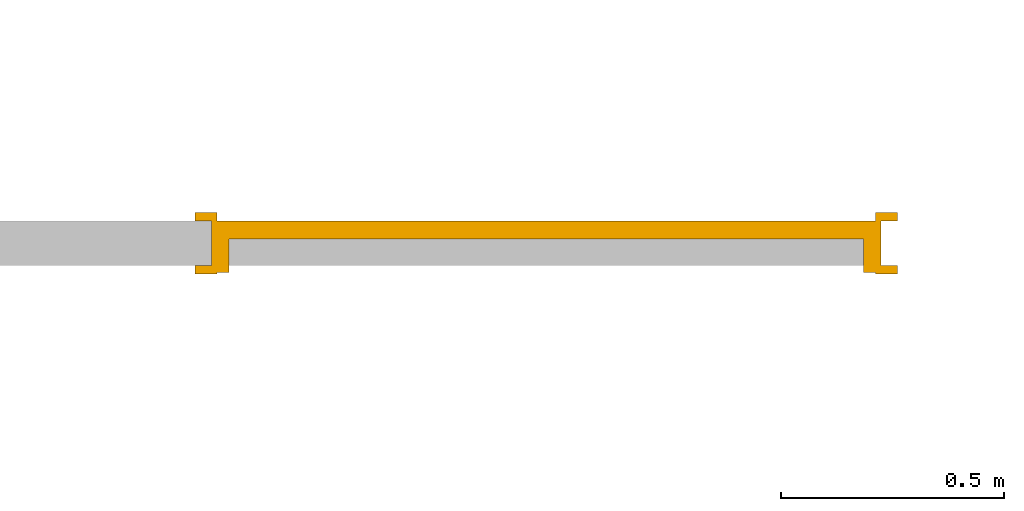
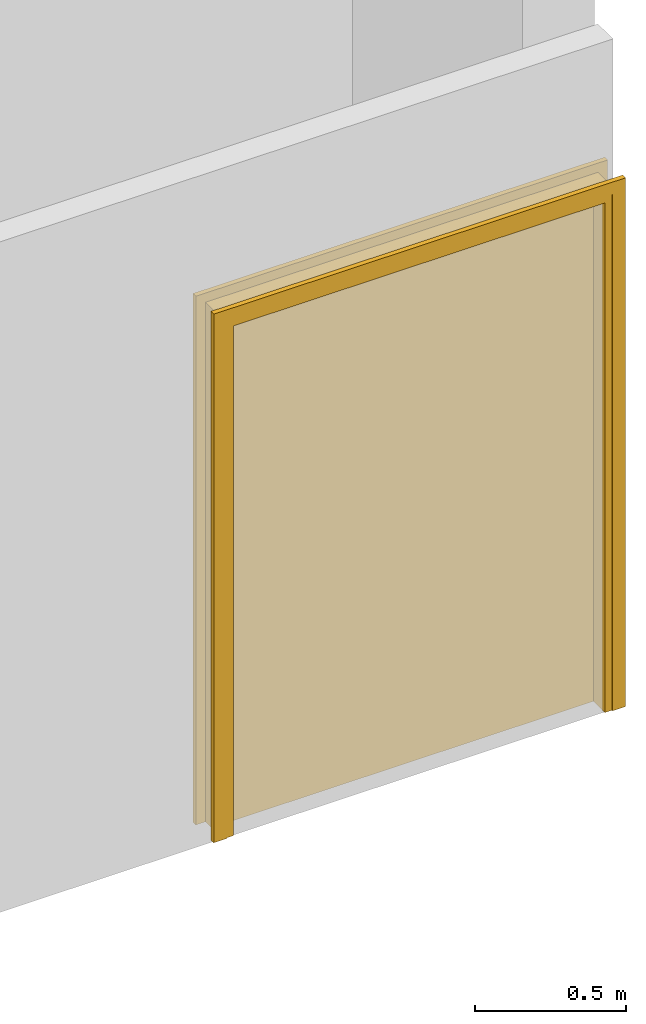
# One storey, part 10 of 22: 1 door.
"""IFC2X3 building model written with IfcOpenShell, lengths in millimetres."""

import ifcopenshell
import ifcopenshell.guid

model = None  # the IFC model being written
_history = None  # IfcOwnerHistory: only IFC2X3 demands one
_inside = {}  # id of a spatial element -> (the spatial element, [elements in it])
_under = {}  # id of a project, library or spatial element -> (it, [spatial elements below it])
_declared = {}  # id of a project -> (the project, [libraries it declares])
_typed = {}  # id of a type object -> (the type object, [elements of that type])
_made_of = {}  # id of a material, layer set ... -> (it, [elements and type objects made of it])


def new_model(schema):
    """Start an empty IFC model of exactly this schema.

    Asked for "IFC4X3", IfcOpenShell would pick the latest addendum, in which some entities
    have other attributes; the version numbers below select the first issue.
    IFC2X3 requires an IfcOwnerHistory on every rooted entity: one is made here for all.
    """
    global model, _history
    if schema == "IFC4X3":
        model = ifcopenshell.file(schema_version=(4, 3, 0, 0))
    else:
        model = ifcopenshell.file(schema=schema)
    _inside.clear()
    _under.clear()
    _declared.clear()
    _typed.clear()
    _made_of.clear()
    _history = None
    if model.schema == "IFC2X3":
        org = make("IfcOrganization", Name="unknown")
        user = make(
            "IfcPersonAndOrganization",
            ThePerson=make("IfcPerson", FamilyName="unknown"),
            TheOrganization=org,
        )
        app = make(
            "IfcApplication",
            ApplicationDeveloper=org,
            Version="unknown",
            ApplicationFullName="unknown",
            ApplicationIdentifier="unknown",
        )
        _history = make(
            "IfcOwnerHistory",
            OwningUser=user,
            OwningApplication=app,
            ChangeAction="ADDED",
            CreationDate=0,
        )
    return model


def make(cls, **values):
    """One entity of the class cls with the attributes given. An attribute that is None is left unset."""
    return model.create_entity(
        cls, **{name: value for name, value in values.items() if value is not None}
    )


def entity(cls, *values):
    """Any entity or typed value of the class cls, its attributes in the order of the schema. None: left unset."""
    e = model.create_entity(cls)
    for i, value in enumerate(values):
        if value is not None:
            e[i] = value
    return e


def rooted(cls, **values):
    """An entity with a GlobalId (a new one), such as an element, a storey or a relation."""
    return make(cls, GlobalId=ifcopenshell.guid.new(), OwnerHistory=_history, **values)


def si_unit(unit_type, name, prefix=None):
    """IfcSIUnit, for example si_unit("LENGTHUNIT", "METRE", prefix="MILLI")."""
    return make("IfcSIUnit", UnitType=unit_type, Prefix=prefix, Name=name)


def converted_unit(unit_type, name, factor, base, dimensions=None, offset=None):
    """IfcConversionBasedUnit, such as the inch: factor (a typed value) times the base unit."""
    return make(
        "IfcConversionBasedUnit"
        if offset is None
        else "IfcConversionBasedUnitWithOffset",
        ConversionOffset=offset,
        Dimensions=None
        if dimensions is None
        else entity("IfcDimensionalExponents", *dimensions),
        UnitType=unit_type,
        Name=name,
        ConversionFactor=make(
            "IfcMeasureWithUnit", ValueComponent=factor, UnitComponent=base
        ),
    )


def derived_unit(unit_type, elements):
    """IfcDerivedUnit: a product of units, each with its exponent."""
    return make(
        "IfcDerivedUnit",
        Elements=[
            make("IfcDerivedUnitElement", Unit=unit, Exponent=power)
            for unit, power in elements
        ],
        UnitType=unit_type,
    )


def assignment(units):
    """IfcUnitAssignment: the units of a project."""
    return None if units is None else make("IfcUnitAssignment", Units=units)


def point(xyz):
    """IfcCartesianPoint."""
    return None if xyz is None else make("IfcCartesianPoint", Coordinates=xyz)


def direction(xyz):
    """IfcDirection."""
    return None if xyz is None else make("IfcDirection", DirectionRatios=xyz)


def frame(location, z_axis=None, x_axis=None):
    """IfcAxis2Placement3D, a coordinate frame: its origin and axes. An axis left out is left unset."""
    return make(
        "IfcAxis2Placement3D",
        Location=point(location),
        Axis=direction(z_axis),
        RefDirection=direction(x_axis),
    )


def origin():
    """The frame at (0, 0, 0) with its axes left unset."""
    return frame((0.0, 0.0, 0.0))


def place(relative_to, where):
    """IfcLocalPlacement: puts the frame where relative to a parent placement (None: the world)."""
    return make(
        "IfcLocalPlacement", PlacementRelTo=relative_to, RelativePlacement=where
    )


def context(
    kind, dimensions, precision=None, world=None, true_north=None, identifier=None
):
    """IfcGeometricRepresentationContext, for example the 3D "Model" context."""
    return make(
        "IfcGeometricRepresentationContext",
        ContextIdentifier=identifier,
        ContextType=kind,
        CoordinateSpaceDimension=dimensions,
        Precision=precision,
        WorldCoordinateSystem=world,
        TrueNorth=true_north,
    )


def subcontext(parent, identifier, kind, view, scale=None):
    """IfcGeometricRepresentationSubContext, for example "Body" below "Model"."""
    return make(
        "IfcGeometricRepresentationSubContext",
        ContextIdentifier=identifier,
        ContextType=kind,
        ParentContext=parent,
        TargetScale=scale,
        TargetView=view,
    )


def project(units=None, contexts=None):
    """IfcProject with its units and contexts."""
    return rooted(
        "IfcProject",
        Name="project",
        RepresentationContexts=contexts,
        UnitsInContext=assignment(units),
    )


def spatial(cls, under=None, at=None, **own):
    """A site, building, storey or space (cls), placed at a placement, below another one or the project."""
    s = rooted(cls, ObjectPlacement=at, **own)
    if under is not None:
        _under.setdefault(under.id(), (under, []))[1].append(s)
    return s


def faces_of(points, faces, orient=None, outer=None):
    """IfcFace entities. A face is a list of loops; a loop is a list of indices into points, from 0.

    orient and outer hold one flag for each loop. By default every Orientation is true, the
    first loop of a face is its IfcFaceOuterBound and the others are IfcFaceBound.
    """
    made = []
    for i, loops in enumerate(faces):
        bounds = []
        for j, loop in enumerate(loops):
            is_outer = j == 0 if outer is None else outer[i][j]
            bounds.append(
                make(
                    "IfcFaceOuterBound" if is_outer else "IfcFaceBound",
                    Bound=make("IfcPolyLoop", Polygon=[points[k] for k in loop]),
                    Orientation=True if orient is None else orient[i][j],
                )
            )
        made.append(make("IfcFace", Bounds=bounds))
    return made


def face_set(faces, orient=None, outer=None):
    """The faces of one IfcConnectedFaceSet. surface_model builds it on its shared points."""
    return ("IfcConnectedFaceSet", faces, orient, outer)


def surface_model(cls, points, shells):
    """IfcFaceBasedSurfaceModel or IfcShellBasedSurfaceModel (cls): surfaces that need not close."""
    shared = [point(p) for p in points]
    made = [make(c, CfsFaces=faces_of(shared, fs, o, b)) for c, fs, o, b in shells]
    if cls == "IfcFaceBasedSurfaceModel":
        return make(cls, FbsmFaces=made)
    return make(cls, SbsmBoundary=made)


def shape(context_of_items, identifier, shape_type, items):
    """IfcShapeRepresentation: the items that make up one representation, for example the "Body"."""
    return make(
        "IfcShapeRepresentation",
        ContextOfItems=context_of_items,
        RepresentationIdentifier=identifier,
        RepresentationType=shape_type,
        Items=items,
    )


def source(mapping_origin, context_of_items, identifier, shape_type, items):
    """IfcRepresentationMap: a shape defined once, which mapped items show again and again."""
    return make(
        "IfcRepresentationMap",
        MappingOrigin=mapping_origin,
        MappedRepresentation=shape(context_of_items, identifier, shape_type, items),
    )


def transform(
    local_origin,
    x_axis=None,
    y_axis=None,
    z_axis=None,
    scale=None,
    scale2=None,
    scale3=None,
    uniform=True,
):
    """IfcCartesianTransformationOperator3D, or its non-uniform kind. x_axis, y_axis, z_axis: its Axis1, 2, 3."""
    if uniform:
        return make(
            "IfcCartesianTransformationOperator3D",
            Axis1=direction(x_axis),
            Axis2=direction(y_axis),
            LocalOrigin=point(local_origin),
            Scale=scale,
            Axis3=direction(z_axis),
        )
    return make(
        "IfcCartesianTransformationOperator3DnonUniform",
        Axis1=direction(x_axis),
        Axis2=direction(y_axis),
        LocalOrigin=point(local_origin),
        Scale=scale,
        Axis3=direction(z_axis),
        Scale2=scale2,
        Scale3=scale3,
    )


def mapped(mapping_source, mapping_target):
    """IfcMappedItem: shows the shape of a source again, moved by a transform."""
    return make(
        "IfcMappedItem", MappingSource=mapping_source, MappingTarget=mapping_target
    )


def material(Name=None, Category=None):
    """IfcMaterial."""
    return make("IfcMaterial", Name=Name, Category=Category)


def made_of(thing, what):
    """Note that an element or type object is made of a material, layer set ...; save() writes the relation."""
    if what is not None:
        _made_of.setdefault(what.id(), (what, []))[1].append(thing)
    return thing


def type_object(cls, material=None, **own):
    """A type object (cls), such as IfcWallType, which elements share."""
    return made_of(rooted(cls, **own), material)


def type_shapes(of_type, sources):
    """Give a type object the sources (RepresentationMaps) that its elements show as mapped items."""
    of_type.RepresentationMaps = sources


def element(
    cls,
    number,
    at=None,
    inside=None,
    cuts=None,
    type_object=None,
    material=None,
    context=None,
    identifier="Body",
    shape_type=None,
    held_by="IfcProductDefinitionShape",
    body=None,
    shapes=None,
    **own,
):
    """One element of the class cls, such as IfcWall. Its Tag is "e" and its number.

    at: its placement. inside: the storey or other place that contains it. cuts: it is an
    opening in that element (IfcRelVoidsElement). A single representation is given by context,
    identifier, shape_type and body (its items); several are given by shapes. held_by: the class
    of the entity that holds the representations. save() writes the other relations.
    """
    e = rooted(cls, Tag="e%d" % number, ObjectPlacement=at, **own)
    if body is not None:
        shapes = [shape(context, identifier, shape_type, body)]
    if shapes is not None:
        e.Representation = make(held_by, Representations=shapes)
    if inside is not None:
        _inside.setdefault(inside.id(), (inside, []))[1].append(e)
    if cuts is not None:
        rooted(
            "IfcRelVoidsElement", RelatingBuildingElement=cuts, RelatedOpeningElement=e
        )
    if type_object is not None:
        _typed.setdefault(type_object.id(), (type_object, []))[1].append(e)
    return made_of(e, material)


def aggregate(whole, parts):
    """IfcRelAggregates: a whole, such as a stair, and the parts it consists of."""
    return rooted("IfcRelAggregates", RelatingObject=whole, RelatedObjects=parts)


def save(model, path):
    """Write the relations noted so far, then the file.

    IfcRelAggregates (storeys below a building ...), IfcRelContainedInSpatialStructure (elements
    in a storey), IfcRelDefinesByType, IfcRelAssociatesMaterial and IfcRelDeclares: one each for
    every whole, place, type object, material and project.
    """
    for whole, parts in _under.values():
        aggregate(whole, parts)
    for where, things in _inside.values():
        rooted(
            "IfcRelContainedInSpatialStructure",
            RelatedElements=things,
            RelatingStructure=where,
        )
    for kind, things in _typed.values():
        rooted("IfcRelDefinesByType", RelatedObjects=things, RelatingType=kind)
    for what, things in _made_of.values():
        rooted("IfcRelAssociatesMaterial", RelatedObjects=things, RelatingMaterial=what)
    for by, libraries in _declared.values():
        rooted("IfcRelDeclares", RelatingContext=by, RelatedDefinitions=libraries)
    model.write(path)


model = new_model("IFC2X3")

# Units and contexts
model_context = context("Model", 3, precision=0.01, world=origin(), true_north=direction((6.12303176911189e-17, 1.0)))
body_context = subcontext(model_context, "Body", "Model", "MODEL_VIEW")
ifc_project = project(units=[si_unit("LENGTHUNIT", "METRE", prefix="MILLI"), si_unit("AREAUNIT", "SQUARE_METRE"), si_unit("VOLUMEUNIT", "CUBIC_METRE"), converted_unit("PLANEANGLEUNIT", "DEGREE", entity("IfcRatioMeasure", 0.0174532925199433), si_unit("PLANEANGLEUNIT", "RADIAN"), dimensions=[0, 0, 0, 0, 0, 0, 0]), si_unit("MASSUNIT", "GRAM", prefix="KILO"), derived_unit("MASSDENSITYUNIT", [(si_unit("MASSUNIT", "GRAM", prefix="KILO"), 1), (si_unit("LENGTHUNIT", "METRE"), -3)]), si_unit("TIMEUNIT", "SECOND"), si_unit("FREQUENCYUNIT", "HERTZ"), si_unit("THERMODYNAMICTEMPERATUREUNIT", "DEGREE_CELSIUS"), derived_unit("THERMALTRANSMITTANCEUNIT", [(si_unit("MASSUNIT", "GRAM", prefix="KILO"), 1), (si_unit("THERMODYNAMICTEMPERATUREUNIT", "KELVIN"), -1), (si_unit("TIMEUNIT", "SECOND"), -3)]), derived_unit("VOLUMETRICFLOWRATEUNIT", [(si_unit("LENGTHUNIT", "METRE"), 3), (si_unit("TIMEUNIT", "SECOND"), -1)]), si_unit("ELECTRICCURRENTUNIT", "AMPERE"), si_unit("ELECTRICVOLTAGEUNIT", "VOLT"), si_unit("POWERUNIT", "WATT"), si_unit("FORCEUNIT", "NEWTON", prefix="KILO"), si_unit("ILLUMINANCEUNIT", "LUX"), si_unit("LUMINOUSFLUXUNIT", "LUMEN"), si_unit("LUMINOUSINTENSITYUNIT", "CANDELA"), derived_unit("USERDEFINED", [(si_unit("MASSUNIT", "GRAM", prefix="KILO"), -1), (si_unit("LENGTHUNIT", "METRE"), -2), (si_unit("TIMEUNIT", "SECOND"), 3), (si_unit("LUMINOUSFLUXUNIT", "LUMEN"), 1)]), derived_unit("LINEARVELOCITYUNIT", [(si_unit("LENGTHUNIT", "METRE"), 1), (si_unit("TIMEUNIT", "SECOND"), -1)]), si_unit("PRESSUREUNIT", "PASCAL"), derived_unit("USERDEFINED", [(si_unit("LENGTHUNIT", "METRE"), -2), (si_unit("MASSUNIT", "GRAM", prefix="KILO"), 1), (si_unit("TIMEUNIT", "SECOND"), -2)])], contexts=[model_context])

# Site, building, storey
site_placement = place(None, origin())
site = spatial("IfcSite", under=ifc_project, at=site_placement, Name="Default", CompositionType="ELEMENT")
building_placement = place(site_placement, origin())
building = spatial("IfcBuilding", under=site, at=building_placement, CompositionType="ELEMENT")
storey_placement = place(building_placement, frame((0.0, 0.0, -3000.0)))
storey = spatial("IfcBuildingStorey", under=building, at=storey_placement, Name="-2. Story", CompositionType="ELEMENT", Elevation=-3000.0)

# Door
ifc_material = material(Name="Metal - Stainless Steel")
door_style = type_object("IfcDoorStyle", Name="DOO - 003", ConstructionType="NOTDEFINED", OperationType="NOTDEFINED", ParameterTakesPrecedence=False, Sizeable=False, material=ifc_material)
shared_shape = source(origin(), body_context, "Body", "SurfaceModel", [
    surface_model("IfcFaceBasedSurfaceModel", [(113471.8569215, 74484.1569014, -2900.0), (113471.8569215, 74503.1569014, -2900.0), (113521.8569215, 74503.1569014, -2900.0), (113521.8569215, 74484.1569014, -2900.0), (113471.8569215, 74484.1569014, -763.0), (113471.8569215, 74503.1569014, -763.0), (113471.8569215, 74503.1569014, -2900.0), (113471.8569215, 74484.1569014, -2900.0), (113471.8569215, 74503.1569014, -2900.0), (113471.8569215, 74503.1569014, -763.0), (113521.8569215, 74503.1569014, -813.0), (113521.8569215, 74503.1569014, -2900.0), (113521.8569215, 74484.1569014, -2900.0), (113521.8569215, 74503.1569014, -2900.0), (113521.8569215, 74503.1569014, -813.0), (113521.8569215, 74484.1569014, -813.0), (113471.8569215, 74484.1569014, -2900.0), (113521.8569215, 74484.1569014, -2900.0), (113521.8569215, 74484.1569014, -813.0), (113471.8569215, 74484.1569014, -763.0), (113521.8569215, 74484.1569014, -813.0), (113521.8569215, 74503.1569014, -813.0), (113471.8569215, 74503.1569014, -763.0), (113471.8569215, 74484.1569014, -763.0), (115045.8569215, 74484.1569014, -763.0), (115045.8569215, 74503.1569014, -763.0), (114995.8569215, 74503.1569014, -813.0), (114995.8569215, 74484.1569014, -813.0), (115045.8569215, 74484.1569014, -2900.0), (115045.8569215, 74503.1569014, -2900.0), (115045.8569215, 74503.1569014, -763.0), (115045.8569215, 74484.1569014, -763.0), (115045.8569215, 74503.1569014, -763.0), (115045.8569215, 74503.1569014, -2900.0), (114995.8569215, 74503.1569014, -2900.0), (114995.8569215, 74503.1569014, -813.0), (114995.8569215, 74484.1569014, -813.0), (114995.8569215, 74503.1569014, -813.0), (114995.8569215, 74503.1569014, -2900.0), (114995.8569215, 74484.1569014, -2900.0), (115045.8569215, 74484.1569014, -763.0), (114995.8569215, 74484.1569014, -813.0), (114995.8569215, 74484.1569014, -2900.0), (115045.8569215, 74484.1569014, -2900.0), (114995.8569215, 74484.1569014, -2900.0), (114995.8569215, 74503.1569014, -2900.0), (115045.8569215, 74503.1569014, -2900.0), (115045.8569215, 74484.1569014, -2900.0), (113471.8569215, 74484.1569014, -763.0), (113471.8569215, 74503.1569014, -763.0), (113521.8569215, 74503.1569014, -813.0), (113521.8569215, 74484.1569014, -813.0), (115045.8569215, 74484.1569014, -763.0), (115045.8569215, 74503.1569014, -763.0), (113471.8569215, 74503.1569014, -763.0), (113471.8569215, 74484.1569014, -763.0), (113471.8569215, 74503.1569014, -763.0), (115045.8569215, 74503.1569014, -763.0), (114995.8569215, 74503.1569014, -813.0), (113521.8569215, 74503.1569014, -813.0), (113521.8569215, 74484.1569014, -813.0), (113521.8569215, 74503.1569014, -813.0), (114995.8569215, 74503.1569014, -813.0), (114995.8569215, 74484.1569014, -813.0), (113471.8569215, 74484.1569014, -763.0), (113521.8569215, 74484.1569014, -813.0), (114995.8569215, 74484.1569014, -813.0), (115045.8569215, 74484.1569014, -763.0), (114995.8569215, 74484.1569014, -813.0), (114995.8569215, 74503.1569014, -813.0), (115045.8569215, 74503.1569014, -763.0), (115045.8569215, 74484.1569014, -763.0), (113471.8569215, 74622.1569014, -2900.0), (113521.8569215, 74622.1569014, -2900.0), (113521.8569215, 74603.1569014, -2900.0), (113471.8569215, 74603.1569014, -2900.0), (113471.8569215, 74622.1569014, -2900.0), (113471.8569215, 74622.1569014, -763.0), (113521.8569215, 74622.1569014, -813.0), (113521.8569215, 74622.1569014, -2900.0), (113521.8569215, 74622.1569014, -2900.0), (113521.8569215, 74622.1569014, -813.0), (113521.8569215, 74603.1569014, -813.0), (113521.8569215, 74603.1569014, -2900.0), (113471.8569215, 74603.1569014, -2900.0), (113521.8569215, 74603.1569014, -2900.0), (113521.8569215, 74603.1569014, -813.0), (113471.8569215, 74603.1569014, -763.0), (113471.8569215, 74622.1569014, -763.0), (113471.8569215, 74622.1569014, -2900.0), (113471.8569215, 74603.1569014, -2900.0), (113471.8569215, 74603.1569014, -763.0), (113521.8569215, 74622.1569014, -813.0), (113471.8569215, 74622.1569014, -763.0), (113471.8569215, 74603.1569014, -763.0), (113521.8569215, 74603.1569014, -813.0), (115045.8569215, 74622.1569014, -763.0), (114995.8569215, 74622.1569014, -813.0), (114995.8569215, 74603.1569014, -813.0), (115045.8569215, 74603.1569014, -763.0), (115045.8569215, 74622.1569014, -763.0), (115045.8569215, 74622.1569014, -2900.0), (114995.8569215, 74622.1569014, -2900.0), (114995.8569215, 74622.1569014, -813.0), (114995.8569215, 74622.1569014, -813.0), (114995.8569215, 74622.1569014, -2900.0), (114995.8569215, 74603.1569014, -2900.0), (114995.8569215, 74603.1569014, -813.0), (115045.8569215, 74603.1569014, -763.0), (114995.8569215, 74603.1569014, -813.0), (114995.8569215, 74603.1569014, -2900.0), (115045.8569215, 74603.1569014, -2900.0), (115045.8569215, 74622.1569014, -2900.0), (115045.8569215, 74622.1569014, -763.0), (115045.8569215, 74603.1569014, -763.0), (115045.8569215, 74603.1569014, -2900.0), (114995.8569215, 74622.1569014, -2900.0), (115045.8569215, 74622.1569014, -2900.0), (115045.8569215, 74603.1569014, -2900.0), (114995.8569215, 74603.1569014, -2900.0), (113471.8569215, 74622.1569014, -763.0), (113521.8569215, 74622.1569014, -813.0), (113521.8569215, 74603.1569014, -813.0), (113471.8569215, 74603.1569014, -763.0), (113471.8569215, 74622.1569014, -763.0), (115045.8569215, 74622.1569014, -763.0), (114995.8569215, 74622.1569014, -813.0), (113521.8569215, 74622.1569014, -813.0), (113521.8569215, 74622.1569014, -813.0), (114995.8569215, 74622.1569014, -813.0), (114995.8569215, 74603.1569014, -813.0), (113521.8569215, 74603.1569014, -813.0), (113471.8569215, 74603.1569014, -763.0), (113521.8569215, 74603.1569014, -813.0), (114995.8569215, 74603.1569014, -813.0), (115045.8569215, 74603.1569014, -763.0), (115045.8569215, 74622.1569014, -763.0), (113471.8569215, 74622.1569014, -763.0), (113471.8569215, 74603.1569014, -763.0), (115045.8569215, 74603.1569014, -763.0), (114995.8569215, 74622.1569014, -813.0), (115045.8569215, 74622.1569014, -763.0), (115045.8569215, 74603.1569014, -763.0), (114995.8569215, 74603.1569014, -813.0), (113548.8569215, 74563.1569014, -2900.0), (113548.8569215, 74563.1569014, -840.0), (113548.8569215, 74488.1569014, -840.0), (113548.8569215, 74488.1569014, -2900.0), (113536.8569215, 74563.1569014, -840.0), (113548.8569215, 74563.1569014, -840.0), (113548.8569215, 74563.1569014, -2900.0), (113536.8569215, 74563.1569014, -2900.0), (113536.8569215, 74563.1569014, -840.0), (113536.8569215, 74603.1569014, -840.0), (113508.8569215, 74603.1569014, -840.0), (113508.8569215, 74488.1569014, -840.0), (113548.8569215, 74488.1569014, -840.0), (113548.8569215, 74563.1569014, -840.0), (113548.8569215, 74488.1569014, -2900.0), (113548.8569215, 74488.1569014, -840.0), (113508.8569215, 74488.1569014, -840.0), (113508.8569215, 74488.1569014, -2900.0), (113536.8569215, 74563.1569014, -2900.0), (113548.8569215, 74563.1569014, -2900.0), (113548.8569215, 74488.1569014, -2900.0), (113508.8569215, 74488.1569014, -2900.0), (113508.8569215, 74603.1569014, -2900.0), (113536.8569215, 74603.1569014, -2900.0), (113536.8569215, 74603.1569014, -840.0), (113536.8569215, 74563.1569014, -840.0), (113536.8569215, 74563.1569014, -2900.0), (113536.8569215, 74603.1569014, -2900.0), (113536.8569215, 74603.1569014, -840.0), (113536.8569215, 74603.1569014, -2900.0), (113508.8569215, 74603.1569014, -2900.0), (113508.8569215, 74603.1569014, -840.0), (113508.8569215, 74603.1569014, -2900.0), (113508.8569215, 74488.1569014, -2900.0), (113508.8569215, 74488.1569014, -840.0), (113508.8569215, 74603.1569014, -840.0), (114980.8569215, 74563.1569014, -840.0), (114968.8569215, 74563.1569014, -840.0), (114968.8569215, 74488.1569014, -840.0), (115008.8569215, 74488.1569014, -840.0), (115008.8569215, 74603.1569014, -840.0), (114980.8569215, 74603.1569014, -840.0), (114968.8569215, 74563.1569014, -840.0), (114980.8569215, 74563.1569014, -840.0), (114980.8569215, 74563.1569014, -2900.0), (114968.8569215, 74563.1569014, -2900.0), (114968.8569215, 74563.1569014, -840.0), (114968.8569215, 74563.1569014, -2900.0), (114968.8569215, 74488.1569014, -2900.0), (114968.8569215, 74488.1569014, -840.0), (115008.8569215, 74488.1569014, -840.0), (114968.8569215, 74488.1569014, -840.0), (114968.8569215, 74488.1569014, -2900.0), (115008.8569215, 74488.1569014, -2900.0), (115008.8569215, 74603.1569014, -840.0), (115008.8569215, 74488.1569014, -840.0), (115008.8569215, 74488.1569014, -2900.0), (115008.8569215, 74603.1569014, -2900.0), (114980.8569215, 74603.1569014, -2900.0), (114980.8569215, 74603.1569014, -840.0), (115008.8569215, 74603.1569014, -840.0), (115008.8569215, 74603.1569014, -2900.0), (114980.8569215, 74563.1569014, -840.0), (114980.8569215, 74603.1569014, -840.0), (114980.8569215, 74603.1569014, -2900.0), (114980.8569215, 74563.1569014, -2900.0), (114980.8569215, 74563.1569014, -2900.0), (114980.8569215, 74603.1569014, -2900.0), (115008.8569215, 74603.1569014, -2900.0), (115008.8569215, 74488.1569014, -2900.0), (114968.8569215, 74488.1569014, -2900.0), (114968.8569215, 74563.1569014, -2900.0), (113536.8569215, 74603.1569014, -828.0), (113536.8569215, 74603.1569014, -840.0), (113508.8569215, 74603.1569014, -840.0), (113508.8569215, 74603.1569014, -800.0), (115008.8569215, 74603.1569014, -800.0), (115008.8569215, 74603.1569014, -840.0), (114980.8569215, 74603.1569014, -840.0), (114980.8569215, 74603.1569014, -828.0), (113536.8569215, 74603.1569014, -840.0), (113536.8569215, 74603.1569014, -828.0), (113536.8569215, 74563.1569014, -828.0), (113536.8569215, 74563.1569014, -840.0), (113536.8569215, 74563.1569014, -840.0), (113548.8569215, 74563.1569014, -840.0), (113548.8569215, 74488.1569014, -840.0), (113508.8569215, 74488.1569014, -840.0), (113508.8569215, 74603.1569014, -840.0), (113536.8569215, 74603.1569014, -840.0), (113508.8569215, 74603.1569014, -840.0), (113508.8569215, 74488.1569014, -840.0), (113508.8569215, 74488.1569014, -800.0), (113508.8569215, 74603.1569014, -800.0), (113508.8569215, 74603.1569014, -800.0), (113508.8569215, 74488.1569014, -800.0), (115008.8569215, 74488.1569014, -800.0), (115008.8569215, 74603.1569014, -800.0), (115008.8569215, 74603.1569014, -800.0), (115008.8569215, 74488.1569014, -800.0), (115008.8569215, 74488.1569014, -840.0), (115008.8569215, 74603.1569014, -840.0), (114980.8569215, 74563.1569014, -840.0), (114980.8569215, 74603.1569014, -840.0), (115008.8569215, 74603.1569014, -840.0), (115008.8569215, 74488.1569014, -840.0), (114968.8569215, 74488.1569014, -840.0), (114968.8569215, 74563.1569014, -840.0), (114980.8569215, 74603.1569014, -828.0), (114980.8569215, 74603.1569014, -840.0), (114980.8569215, 74563.1569014, -840.0), (114980.8569215, 74563.1569014, -828.0), (113536.8569215, 74603.1569014, -828.0), (114980.8569215, 74603.1569014, -828.0), (114980.8569215, 74563.1569014, -828.0), (113536.8569215, 74563.1569014, -828.0), (114980.8569215, 74563.1569014, -840.0), (114968.8569215, 74563.1569014, -840.0), (113548.8569215, 74563.1569014, -840.0), (113536.8569215, 74563.1569014, -840.0), (113536.8569215, 74563.1569014, -828.0), (114980.8569215, 74563.1569014, -828.0), (113548.8569215, 74563.1569014, -840.0), (114968.8569215, 74563.1569014, -840.0), (114968.8569215, 74488.1569014, -840.0), (113548.8569215, 74488.1569014, -840.0), (114968.8569215, 74488.1569014, -840.0), (115008.8569215, 74488.1569014, -840.0), (115008.8569215, 74488.1569014, -800.0), (113508.8569215, 74488.1569014, -800.0), (113508.8569215, 74488.1569014, -840.0), (113548.8569215, 74488.1569014, -840.0), (114980.8569215, 74603.1569014, -2900.0), (114980.8569215, 74563.1569014, -2900.0), (114258.8569215, 74563.1569014, -2900.0), (114258.8569215, 74603.1569014, -2900.0), (114980.8569215, 74603.1569014, -828.0), (114980.8569215, 74563.1569014, -828.0), (114980.8569215, 74563.1569014, -2900.0), (114980.8569215, 74603.1569014, -2900.0), (114980.8569215, 74563.1569014, -2900.0), (114980.8569215, 74563.1569014, -828.0), (114258.8569215, 74563.1569014, -828.0), (114258.8569215, 74563.1569014, -2900.0), (114258.8569215, 74603.1569014, -2900.0), (114258.8569215, 74563.1569014, -2900.0), (114258.8569215, 74563.1569014, -828.0), (114258.8569215, 74603.1569014, -828.0), (114980.8569215, 74603.1569014, -2900.0), (114258.8569215, 74603.1569014, -2900.0), (114258.8569215, 74603.1569014, -828.0), (114980.8569215, 74603.1569014, -828.0), (114258.8569215, 74603.1569014, -828.0), (114258.8569215, 74563.1569014, -828.0), (114980.8569215, 74563.1569014, -828.0), (114980.8569215, 74603.1569014, -828.0), (113536.8569215, 74603.1569014, -2900.0), (114258.8569215, 74603.1569014, -2900.0), (114258.8569215, 74563.1569014, -2900.0), (113536.8569215, 74563.1569014, -2900.0), (113536.8569215, 74603.1569014, -2900.0), (113536.8569215, 74603.1569014, -828.0), (114258.8569215, 74603.1569014, -828.0), (114258.8569215, 74603.1569014, -2900.0), (114258.8569215, 74603.1569014, -2900.0), (114258.8569215, 74603.1569014, -828.0), (114258.8569215, 74563.1569014, -828.0), (114258.8569215, 74563.1569014, -2900.0), (113536.8569215, 74563.1569014, -2900.0), (114258.8569215, 74563.1569014, -2900.0), (114258.8569215, 74563.1569014, -828.0), (113536.8569215, 74563.1569014, -828.0), (113536.8569215, 74603.1569014, -828.0), (113536.8569215, 74603.1569014, -2900.0), (113536.8569215, 74563.1569014, -2900.0), (113536.8569215, 74563.1569014, -828.0), (114258.8569215, 74603.1569014, -828.0), (113536.8569215, 74603.1569014, -828.0), (113536.8569215, 74563.1569014, -828.0), (114258.8569215, 74563.1569014, -828.0)], [face_set([[[0, 1, 2, 3]]]), face_set([[[4, 5, 6, 7]]]), face_set([[[8, 9, 10, 11]]]), face_set([[[12, 13, 14, 15]]]), face_set([[[16, 17, 18, 19]]]), face_set([[[20, 21, 22, 23]]]), face_set([[[24, 25, 26, 27]]]), face_set([[[28, 29, 30, 31]]]), face_set([[[32, 33, 34, 35]]]), face_set([[[36, 37, 38, 39]]]), face_set([[[40, 41, 42, 43]]]), face_set([[[44, 45, 46, 47]]]), face_set([[[48, 49, 50, 51]]]), face_set([[[52, 53, 54, 55]]]), face_set([[[56, 57, 58, 59]]]), face_set([[[60, 61, 62, 63]]]), face_set([[[64, 65, 66, 67]]]), face_set([[[68, 69, 70, 71]]]), face_set([[[72, 73, 74, 75]]]), face_set([[[76, 77, 78, 79]]]), face_set([[[80, 81, 82, 83]]]), face_set([[[84, 85, 86, 87]]]), face_set([[[88, 89, 90, 91]]]), face_set([[[92, 93, 94, 95]]]), face_set([[[96, 97, 98, 99]]]), face_set([[[100, 101, 102, 103]]]), face_set([[[104, 105, 106, 107]]]), face_set([[[108, 109, 110, 111]]]), face_set([[[112, 113, 114, 115]]]), face_set([[[116, 117, 118, 119]]]), face_set([[[120, 121, 122, 123]]]), face_set([[[124, 125, 126, 127]]]), face_set([[[128, 129, 130, 131]]]), face_set([[[132, 133, 134, 135]]]), face_set([[[136, 137, 138, 139]]]), face_set([[[140, 141, 142, 143]]]), face_set([[[144, 145, 146, 147]]]), face_set([[[148, 149, 150, 151]]]), face_set([[[152, 153, 154, 155, 156, 157]]]), face_set([[[158, 159, 160, 161]]]), face_set([[[162, 163, 164, 165, 166, 167]]]), face_set([[[168, 169, 170, 171]]]), face_set([[[172, 173, 174, 175]]]), face_set([[[176, 177, 178, 179]]]), face_set([[[180, 181, 182, 183, 184, 185]]]), face_set([[[186, 187, 188, 189]]]), face_set([[[190, 191, 192, 193]]]), face_set([[[194, 195, 196, 197]]]), face_set([[[198, 199, 200, 201]]]), face_set([[[202, 203, 204, 205]]]), face_set([[[206, 207, 208, 209]]]), face_set([[[210, 211, 212, 213, 214, 215]]]), face_set([[[216, 217, 218, 219, 220, 221, 222, 223]]]), face_set([[[224, 225, 226, 227]]]), face_set([[[228, 229, 230, 231, 232, 233]]]), face_set([[[234, 235, 236, 237]]]), face_set([[[238, 239, 240, 241]]]), face_set([[[242, 243, 244, 245]]]), face_set([[[246, 247, 248, 249, 250, 251]]]), face_set([[[252, 253, 254, 255]]]), face_set([[[256, 257, 258, 259]]]), face_set([[[260, 261, 262, 263, 264, 265]]]), face_set([[[266, 267, 268, 269]]]), face_set([[[270, 271, 272, 273, 274, 275]]]), face_set([[[276, 277, 278, 279]]]), face_set([[[280, 281, 282, 283]]]), face_set([[[284, 285, 286, 287]]]), face_set([[[288, 289, 290, 291]]]), face_set([[[292, 293, 294, 295]]]), face_set([[[296, 297, 298, 299]]]), face_set([[[300, 301, 302, 303]]]), face_set([[[304, 305, 306, 307]]]), face_set([[[308, 309, 310, 311]]]), face_set([[[312, 313, 314, 315]]]), face_set([[[316, 317, 318, 319]]]), face_set([[[320, 321, 322, 323]]])]),
])
type_shapes(door_style, [shared_shape])
door_placement = place(storey_placement, frame((0.0, 0.0, 3000.0)))
element("IfcDoor", 1, at=door_placement, inside=storey, type_object=door_style, material=ifc_material, Name="DOO - 003 1465537:DOO - 003 1465537", ObjectType="DOO - 003 1465537:DOO - 003 1465537", OverallHeight=2137.00000000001, OverallWidth=1574.00000000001, context=body_context, shape_type="MappedRepresentation", body=[
    mapped(shared_shape, transform((0.0, 0.0, 0.0), scale=1.0)),
])

save(model, "model.ifc")
